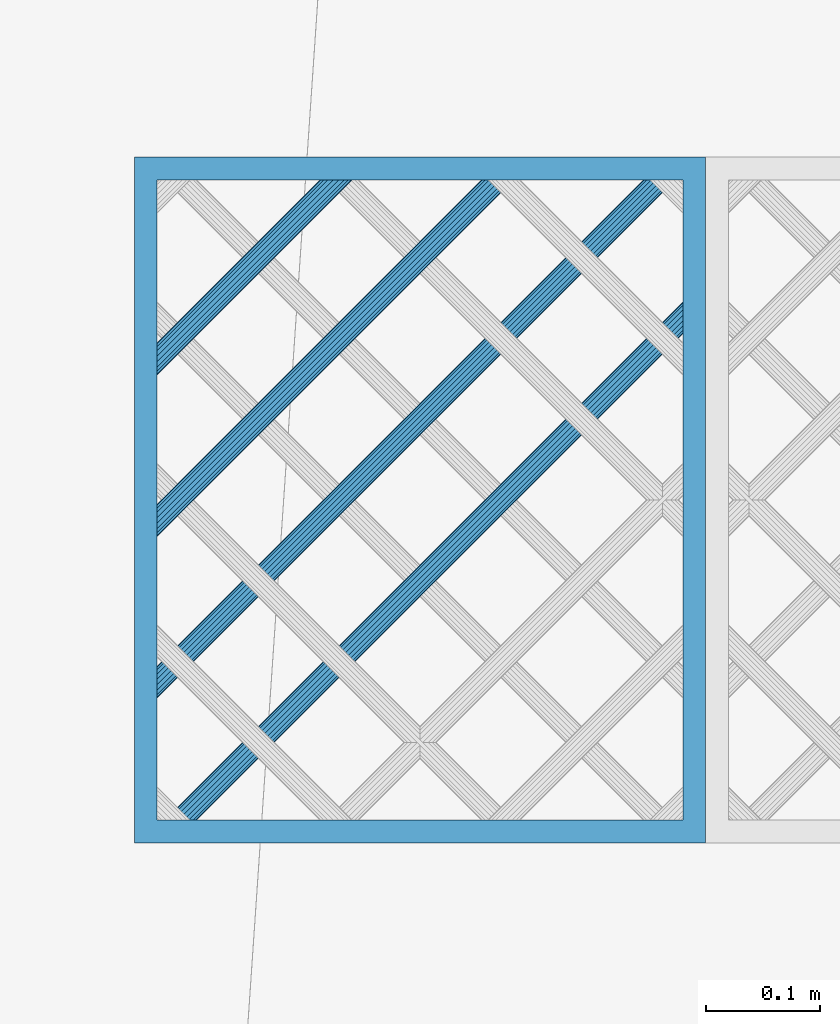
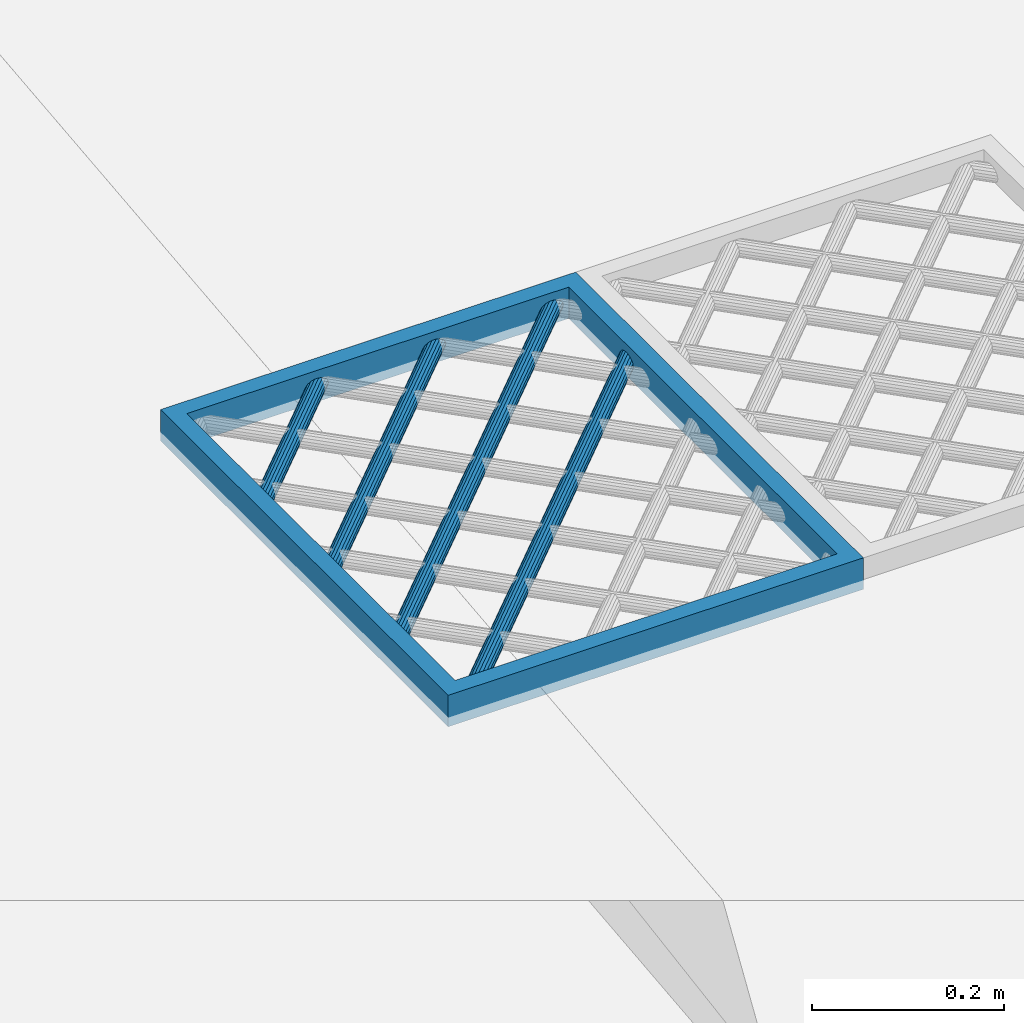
# One storey, part 73 of 133: 5 members, 1 element without a shape of its own.
"""IFC2X3 building model written with IfcOpenShell, lengths in centimetres."""

import ifcopenshell
import ifcopenshell.guid

model = None  # the IFC model being written
_history = None  # IfcOwnerHistory: only IFC2X3 demands one
_inside = {}  # id of a spatial element -> (the spatial element, [elements in it])
_under = {}  # id of a project, library or spatial element -> (it, [spatial elements below it])
_declared = {}  # id of a project -> (the project, [libraries it declares])
_typed = {}  # id of a type object -> (the type object, [elements of that type])
_made_of = {}  # id of a material, layer set ... -> (it, [elements and type objects made of it])


def new_model(schema):
    """Start an empty IFC model of exactly this schema.

    Asked for "IFC4X3", IfcOpenShell would pick the latest addendum, in which some entities
    have other attributes; the version numbers below select the first issue.
    IFC2X3 requires an IfcOwnerHistory on every rooted entity: one is made here for all.
    """
    global model, _history
    if schema == "IFC4X3":
        model = ifcopenshell.file(schema_version=(4, 3, 0, 0))
    else:
        model = ifcopenshell.file(schema=schema)
    _inside.clear()
    _under.clear()
    _declared.clear()
    _typed.clear()
    _made_of.clear()
    _history = None
    if model.schema == "IFC2X3":
        org = make("IfcOrganization", Name="unknown")
        user = make(
            "IfcPersonAndOrganization",
            ThePerson=make("IfcPerson", FamilyName="unknown"),
            TheOrganization=org,
        )
        app = make(
            "IfcApplication",
            ApplicationDeveloper=org,
            Version="unknown",
            ApplicationFullName="unknown",
            ApplicationIdentifier="unknown",
        )
        _history = make(
            "IfcOwnerHistory",
            OwningUser=user,
            OwningApplication=app,
            ChangeAction="ADDED",
            CreationDate=0,
        )
    return model


def make(cls, **values):
    """One entity of the class cls with the attributes given. An attribute that is None is left unset."""
    return model.create_entity(
        cls, **{name: value for name, value in values.items() if value is not None}
    )


def entity(cls, *values):
    """Any entity or typed value of the class cls, its attributes in the order of the schema. None: left unset."""
    e = model.create_entity(cls)
    for i, value in enumerate(values):
        if value is not None:
            e[i] = value
    return e


def rooted(cls, **values):
    """An entity with a GlobalId (a new one), such as an element, a storey or a relation."""
    return make(cls, GlobalId=ifcopenshell.guid.new(), OwnerHistory=_history, **values)


def si_unit(unit_type, name, prefix=None):
    """IfcSIUnit, for example si_unit("LENGTHUNIT", "METRE", prefix="MILLI")."""
    return make("IfcSIUnit", UnitType=unit_type, Prefix=prefix, Name=name)


def converted_unit(unit_type, name, factor, base, dimensions=None, offset=None):
    """IfcConversionBasedUnit, such as the inch: factor (a typed value) times the base unit."""
    return make(
        "IfcConversionBasedUnit"
        if offset is None
        else "IfcConversionBasedUnitWithOffset",
        ConversionOffset=offset,
        Dimensions=None
        if dimensions is None
        else entity("IfcDimensionalExponents", *dimensions),
        UnitType=unit_type,
        Name=name,
        ConversionFactor=make(
            "IfcMeasureWithUnit", ValueComponent=factor, UnitComponent=base
        ),
    )


def assignment(units):
    """IfcUnitAssignment: the units of a project."""
    return None if units is None else make("IfcUnitAssignment", Units=units)


def point(xyz):
    """IfcCartesianPoint."""
    return None if xyz is None else make("IfcCartesianPoint", Coordinates=xyz)


def direction(xyz):
    """IfcDirection."""
    return None if xyz is None else make("IfcDirection", DirectionRatios=xyz)


def frame(location, z_axis=None, x_axis=None):
    """IfcAxis2Placement3D, a coordinate frame: its origin and axes. An axis left out is left unset."""
    return make(
        "IfcAxis2Placement3D",
        Location=point(location),
        Axis=direction(z_axis),
        RefDirection=direction(x_axis),
    )


def origin():
    """The frame at (0, 0, 0) with its axes left unset."""
    return frame((0.0, 0.0, 0.0))


def origin_with_axes():
    """The frame at (0, 0, 0) with the z axis (0, 0, 1) and the x axis (1, 0, 0) written out."""
    return frame((0.0, 0.0, 0.0), z_axis=(0.0, 0.0, 1.0), x_axis=(1.0, 0.0, 0.0))


def place(relative_to, where):
    """IfcLocalPlacement: puts the frame where relative to a parent placement (None: the world)."""
    return make(
        "IfcLocalPlacement", PlacementRelTo=relative_to, RelativePlacement=where
    )


def context(
    kind, dimensions, precision=None, world=None, true_north=None, identifier=None
):
    """IfcGeometricRepresentationContext, for example the 3D "Model" context."""
    return make(
        "IfcGeometricRepresentationContext",
        ContextIdentifier=identifier,
        ContextType=kind,
        CoordinateSpaceDimension=dimensions,
        Precision=precision,
        WorldCoordinateSystem=world,
        TrueNorth=true_north,
    )


def subcontext(parent, identifier, kind, view, scale=None):
    """IfcGeometricRepresentationSubContext, for example "Body" below "Model"."""
    return make(
        "IfcGeometricRepresentationSubContext",
        ContextIdentifier=identifier,
        ContextType=kind,
        ParentContext=parent,
        TargetScale=scale,
        TargetView=view,
    )


def project(units=None, contexts=None):
    """IfcProject with its units and contexts."""
    return rooted(
        "IfcProject",
        Name="project",
        RepresentationContexts=contexts,
        UnitsInContext=assignment(units),
    )


def spatial(cls, under=None, at=None, **own):
    """A site, building, storey or space (cls), placed at a placement, below another one or the project."""
    s = rooted(cls, ObjectPlacement=at, **own)
    if under is not None:
        _under.setdefault(under.id(), (under, []))[1].append(s)
    return s


def faces_of(points, faces, orient=None, outer=None):
    """IfcFace entities. A face is a list of loops; a loop is a list of indices into points, from 0.

    orient and outer hold one flag for each loop. By default every Orientation is true, the
    first loop of a face is its IfcFaceOuterBound and the others are IfcFaceBound.
    """
    made = []
    for i, loops in enumerate(faces):
        bounds = []
        for j, loop in enumerate(loops):
            is_outer = j == 0 if outer is None else outer[i][j]
            bounds.append(
                make(
                    "IfcFaceOuterBound" if is_outer else "IfcFaceBound",
                    Bound=make("IfcPolyLoop", Polygon=[points[k] for k in loop]),
                    Orientation=True if orient is None else orient[i][j],
                )
            )
        made.append(make("IfcFace", Bounds=bounds))
    return made


def faceted_brep(points, faces, orient=None, outer=None, voids=None):
    """IfcFacetedBrep: a solid bounded by flat faces; with voids (closed shells), ...WithVoids."""
    shared = [point(p) for p in points]
    hull = make("IfcClosedShell", CfsFaces=faces_of(shared, faces, orient, outer))
    if voids is None:
        return make("IfcFacetedBrep", Outer=hull)
    return make(
        "IfcFacetedBrepWithVoids",
        Outer=hull,
        Voids=[
            make(cls, CfsFaces=faces_of(shared, fs, o, b)) for cls, fs, o, b in voids
        ],
    )


def shape(context_of_items, identifier, shape_type, items):
    """IfcShapeRepresentation: the items that make up one representation, for example the "Body"."""
    return make(
        "IfcShapeRepresentation",
        ContextOfItems=context_of_items,
        RepresentationIdentifier=identifier,
        RepresentationType=shape_type,
        Items=items,
    )


def material(Name=None, Category=None):
    """IfcMaterial."""
    return make("IfcMaterial", Name=Name, Category=Category)


def made_of(thing, what):
    """Note that an element or type object is made of a material, layer set ...; save() writes the relation."""
    if what is not None:
        _made_of.setdefault(what.id(), (what, []))[1].append(thing)
    return thing


def type_object(cls, material=None, **own):
    """A type object (cls), such as IfcWallType, which elements share."""
    return made_of(rooted(cls, **own), material)


def element(
    cls,
    number,
    at=None,
    inside=None,
    cuts=None,
    type_object=None,
    material=None,
    context=None,
    identifier="Body",
    shape_type=None,
    held_by="IfcProductDefinitionShape",
    body=None,
    shapes=None,
    **own,
):
    """One element of the class cls, such as IfcWall. Its Tag is "e" and its number.

    at: its placement. inside: the storey or other place that contains it. cuts: it is an
    opening in that element (IfcRelVoidsElement). A single representation is given by context,
    identifier, shape_type and body (its items); several are given by shapes. held_by: the class
    of the entity that holds the representations. save() writes the other relations.
    """
    e = rooted(cls, Tag="e%d" % number, ObjectPlacement=at, **own)
    if body is not None:
        shapes = [shape(context, identifier, shape_type, body)]
    if shapes is not None:
        e.Representation = make(held_by, Representations=shapes)
    if inside is not None:
        _inside.setdefault(inside.id(), (inside, []))[1].append(e)
    if cuts is not None:
        rooted(
            "IfcRelVoidsElement", RelatingBuildingElement=cuts, RelatedOpeningElement=e
        )
    if type_object is not None:
        _typed.setdefault(type_object.id(), (type_object, []))[1].append(e)
    return made_of(e, material)


def aggregate(whole, parts):
    """IfcRelAggregates: a whole, such as a stair, and the parts it consists of."""
    return rooted("IfcRelAggregates", RelatingObject=whole, RelatedObjects=parts)


def save(model, path):
    """Write the relations noted so far, then the file.

    IfcRelAggregates (storeys below a building ...), IfcRelContainedInSpatialStructure (elements
    in a storey), IfcRelDefinesByType, IfcRelAssociatesMaterial and IfcRelDeclares: one each for
    every whole, place, type object, material and project.
    """
    for whole, parts in _under.values():
        aggregate(whole, parts)
    for where, things in _inside.values():
        rooted(
            "IfcRelContainedInSpatialStructure",
            RelatedElements=things,
            RelatingStructure=where,
        )
    for kind, things in _typed.values():
        rooted("IfcRelDefinesByType", RelatedObjects=things, RelatingType=kind)
    for what, things in _made_of.values():
        rooted("IfcRelAssociatesMaterial", RelatedObjects=things, RelatingMaterial=what)
    for by, libraries in _declared.values():
        rooted("IfcRelDeclares", RelatingContext=by, RelatedDefinitions=libraries)
    model.write(path)


model = new_model("IFC2X3")

# Units and contexts
model_context = context("Model", 3, precision=0.0001, world=origin(), true_north=direction((0.225632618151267, 0.974212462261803, 0.0)))
body_context = subcontext(model_context, "Body", "Model", "MODEL_VIEW")
ifc_project = project(units=[si_unit("LENGTHUNIT", "METRE", prefix="CENTI"), si_unit("AREAUNIT", "SQUARE_METRE", prefix="CENTI"), si_unit("VOLUMEUNIT", "CUBIC_METRE", prefix="CENTI"), converted_unit("PLANEANGLEUNIT", "DEGREE", entity("IfcRatioMeasure", 0.0174532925), si_unit("PLANEANGLEUNIT", "RADIAN"), dimensions=[0, 0, 0, 0, 0, 0, 0])], contexts=[model_context])

# Site, building, storey
site_placement = place(None, origin_with_axes())
site = spatial("IfcSite", under=ifc_project, at=site_placement, Name="Default Site", CompositionType="ELEMENT")
building_placement = place(site_placement, origin_with_axes())
building = spatial("IfcBuilding", under=site, at=building_placement, Name="Default Building", CompositionType="ELEMENT")
storey_placement = place(building_placement, frame((0.0, 0.0, -291.400371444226), z_axis=(0.0, 0.0, 1.0), x_axis=(1.0, 0.0, 0.0)))
storey = spatial("IfcBuildingStorey", under=building, at=storey_placement, Name="Rez-de-Jardin", CompositionType="ELEMENT", Elevation=-291.400371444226)

# Assembly, members
building_element_proxy_type = type_object("IfcBuildingElementProxyType", Name="Type Object", PredefinedType="NOTDEFINED")
assembly_placement = place(storey_placement, frame((-26.2717802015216, 1298.33524038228, 113.0), z_axis=(0.0, 1.0, -2.38697950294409e-15), x_axis=(1.0, 0.0, 0.0)))
assembly = element("IfcElementAssembly", 1, at=assembly_placement, inside=storey, type_object=building_element_proxy_type, Name="Panneau 326484", ObjectType="Precast panel", PredefinedType="USERDEFINED")
ifc_material = material(Name="Aluminium satiné")
member_1_placement = place(assembly_placement, frame((1.99999995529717, 1.99999995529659, 57.9999983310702), z_axis=(0.999999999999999, 1.92249071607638e-31, -8.0540729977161e-17), x_axis=(0.0, 1.0, 2.38697950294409e-15)))
member_1 = element("IfcMember", 2, at=member_1_placement, material=ifc_material, Name="4294966902", context=body_context, shape_type="Brep", body=[
    faceted_brep([(-1.70002900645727e-14, 0.0, -1.73472347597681e-15), (-3.99999991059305, 0.0, -1.73472347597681e-15), (-3.99999991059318, -55.9999983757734, -1.73472347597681e-15), (-1.50573997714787e-13, -55.9999983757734, -1.73472347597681e-15), (-3.99999991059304, 2.00000405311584, -1.99999995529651), (-3.99999991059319, -57.9999983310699, -1.99999995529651), (-3.99999991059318, -55.9999983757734, 2.77555756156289e-15), (-1.21430643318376e-14, 2.00000405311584, -1.99999995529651), (-1.55431223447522e-13, -57.9999983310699, -1.99999995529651), (-1.69170330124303e-14, -1.98732876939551e-31, -1.73472347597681e-15), (-1.50587881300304e-13, -55.9999983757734, 2.77555756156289e-15), (-1.55361840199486e-13, -57.9999983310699, -1.99999995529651), (-1.50573997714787e-13, -55.9999983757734, 2.77555756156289e-15), (-3.99999991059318, -55.9999983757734, 45.9999989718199), (-1.50573997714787e-13, -55.9999983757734, 45.9999989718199), (-3.99999991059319, -57.9999983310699, 48.0000000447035), (-1.55431223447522e-13, -57.99999833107, 48.0000000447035), (-3.99999991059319, -57.9999983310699, 48.0000000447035), (-1.5065726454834e-13, -55.9999983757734, 2.77555756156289e-15), (-1.5065726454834e-13, -55.9999983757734, 45.9999989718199), (-3.99999991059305, -4.47090864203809e-31, 45.9999989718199), (-1.70002900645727e-14, -4.47090864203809e-31, 45.9999989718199), (-3.99999991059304, 2.00000405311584, 48.0000000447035), (-3.99999991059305, 0.0, 45.9999989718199), (-1.21430643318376e-14, 2.00000405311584, 48.0000000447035), (-1.69864162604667e-14, -3.31164860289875e-32, 45.9999989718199), (-1.2212447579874e-14, 2.00000405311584, 48.0000000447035), (-1.70002900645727e-14, 0.0, 45.9999989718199), (-3.99999991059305, 9.54791779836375e-15, 45.9999989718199), (-3.99999991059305, 5.84304430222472e-15, -1.73472347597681e-15), (-1.70002900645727e-14, -3.70487349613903e-15, -1.73472347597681e-15), (-1.21430643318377e-14, 2.00000405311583, 48.0000000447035), (-1.21430643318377e-14, 2.00000405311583, -1.99999995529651), (-1.69170330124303e-14, -1.98732876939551e-31, 45.9999989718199), (-1.69170330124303e-14, -1.98732876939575e-31, -1.73472347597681e-15)], [[[0, 1, 2, 3]], [[1, 4, 5, 6]], [[4, 7, 8, 5]], [[7, 9, 10, 11]], [[12, 6, 13, 14]], [[6, 5, 15, 13]], [[5, 8, 16, 17]], [[8, 18, 19, 16]], [[14, 13, 20, 21]], [[13, 15, 22, 23]], [[15, 16, 24, 22]], [[16, 19, 25, 26]], [[27, 28, 29, 30]], [[23, 22, 4, 1]], [[22, 31, 32, 4]], [[24, 33, 34, 7]]]),
])
member_2_placement = place(assembly_placement, frame((18.973587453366, 0.342020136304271, 57.9999983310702), z_axis=(1.16937634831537e-15, -1.43218776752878e-15, 1.0), x_axis=(0.632455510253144, -0.774596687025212, -1.84894641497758e-15)))
member_2 = element("IfcMember", 3, at=member_2_placement, material=ifc_material, Name="4294966900", context=body_context, shape_type="Brep", body=[
    faceted_brep([(-4.16333634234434e-15, -2.22044604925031e-14, -3.10862446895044e-13), (-0.388289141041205, -2.22044604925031e-14, -3.11580372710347e-13), (-0.799165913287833, -0.150249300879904, -3.1234006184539e-13), (-1.18307196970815, -0.432624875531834, -3.13049883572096e-13), (-1.49370326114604, -0.813068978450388, -3.1362422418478e-13), (-1.69359339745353, -1.24569483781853, -3.13993810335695e-13), (-1.75863166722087, -1.67832007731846, -3.14114062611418e-13), (-1.68097381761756, -2.05876418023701, -3.13970477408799e-13), (-1.46998625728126, -2.34113956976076, -3.1358037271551e-13), (-1.15111848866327, -2.49138921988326, -3.12990803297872e-13), (-0.762829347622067, -2.49138921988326, -3.12272877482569e-13), (-0.351952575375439, -2.34113991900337, -3.11513188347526e-13), (0.0319544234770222, -2.05876319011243, -3.10803364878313e-13), (0.342585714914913, -1.67831908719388, -3.10229024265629e-13), (0.542474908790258, -1.24569438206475, -3.09859439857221e-13), (0.607513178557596, -0.813069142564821, -3.09739187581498e-13), (0.529855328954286, -0.432625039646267, -3.09882772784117e-13), (0.318867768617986, -0.150249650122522, -3.10272877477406e-13), (-10.4701112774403, -13.3639971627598, -17.058873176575), (-10.2051836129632, -13.5803096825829, -16.9735848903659), (-9.97221011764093, -13.7705317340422, -16.7280107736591), (-9.79929086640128, -13.9117197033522, -16.3517653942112), (-9.7072824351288, -13.9868442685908, -15.8902347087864), (-9.7072824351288, -13.9868442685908, -15.3990834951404), (-9.79929086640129, -13.9117197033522, -14.9375528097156), (-9.97221011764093, -13.7705317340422, -14.5613074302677), (-10.2051836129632, -13.5803096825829, -14.3157333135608), (-10.4701112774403, -13.3639971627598, -14.2304450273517), (-10.7350389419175, -13.1476846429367, -14.3157333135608), (-10.9680124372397, -12.9574625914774, -14.5613074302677), (-11.1409316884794, -12.8162746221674, -14.9375528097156), (-11.2329401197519, -12.7411500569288, -15.3990834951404), (-11.2329401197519, -12.7411500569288, -15.8902347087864), (-11.1409316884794, -12.8162746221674, -16.3517653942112), (-10.9680124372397, -12.9574625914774, -16.7280107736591), (-10.7350389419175, -13.1476846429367, -16.9735848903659), (0.318867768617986, -0.150249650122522, -3.10862446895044e-13), (0.529855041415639, -0.432625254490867, 3.48273005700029e-07), (-10.205182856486, -13.5803091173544, -16.9735858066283), (-10.470110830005, -13.3639968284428, -17.0588737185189), (0.529855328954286, -0.432625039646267, -3.10862446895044e-13), (0.607513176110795, -0.813069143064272, 1.93405553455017e-09), (-9.97220958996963, -13.7705316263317, -16.7280111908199), (-10.205182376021, -13.5803094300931, -16.9735858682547), (0.607513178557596, -0.813069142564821, -3.10862446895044e-13), (0.542475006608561, -1.24569439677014, -5.04752929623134e-08), (-9.79928972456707, -13.9117198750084, -16.3517659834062), (-9.97220967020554, -13.7705318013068, -16.7280110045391), (0.542474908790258, -1.24569438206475, -3.10862446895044e-13), (0.342585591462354, -1.67831903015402, 3.38950544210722e-08), (-9.7072820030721, -13.9868444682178, -15.8902348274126), (-9.79929031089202, -13.911719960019, -16.3517655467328), (0.342585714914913, -1.67831908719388, -3.10862446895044e-13), (0.0319544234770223, -2.05876319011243, -3.10862446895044e-13), (0.0319544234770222, -2.05876319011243, -3.10862446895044e-13), (-0.351952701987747, -2.34113974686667, -5.32601805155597e-08), (-9.79929114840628, -13.9117193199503, -14.9375529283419), (-9.70728279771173, -13.9868437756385, -15.3990836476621), (-0.351952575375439, -2.34113991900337, -3.10862446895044e-13), (-0.762829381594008, -2.49138912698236, -5.04752917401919e-08), (-9.97221051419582, -13.770530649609, -14.5613080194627), (-9.79929102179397, -13.9117192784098, -14.9375530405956), (-0.762829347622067, -2.49138921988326, -3.10862446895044e-13), (-1.15111848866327, -2.49138922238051, 1.93405500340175e-09), (-10.2051836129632, -13.5803091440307, -14.3157337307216), (-9.97221011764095, -13.7705304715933, -14.5613084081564), (-1.15111848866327, -2.49138921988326, -3.10862446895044e-13), (-1.46998641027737, -2.34113989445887, 3.4827300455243e-07), (-10.4701108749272, -13.3639963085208, -14.2304459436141), (-10.2051833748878, -13.5803091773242, -14.3157338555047), (-1.46998625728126, -2.34113956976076, -3.10862446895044e-13), (-1.68097353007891, -2.05876396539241, -3.48273627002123e-07), (-10.7350382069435, -13.147684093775, -14.315734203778), (-10.4701102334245, -13.3639963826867, -14.2304462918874), (-1.68097381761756, -2.05876418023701, -3.10862446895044e-13), (-1.75863166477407, -1.67832007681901, -1.93467736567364e-09), (-10.9680111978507, -12.9574623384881, -14.5613084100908), (-10.7350384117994, -13.1476845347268, -14.315733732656), (-1.75863166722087, -1.67832007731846, -3.10862446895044e-13), (-1.69359349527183, -1.24569482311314, 5.0474670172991e-08), (-11.1409313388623, -12.8162746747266, -14.9375529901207), (-10.9680113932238, -12.9574627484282, -14.5613079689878), (-1.69359339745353, -1.24569483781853, -3.10862446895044e-13), (-1.49370345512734, -0.813068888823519, 5.32595587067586e-08), (-11.2329397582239, -12.7411502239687, -15.3990835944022), (-11.140931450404, -12.8162747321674, -14.937552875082), (-1.49370326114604, -0.813068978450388, -3.10862446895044e-13), (-1.18307196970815, -0.432624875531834, -3.10862446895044e-13), (-0.79916599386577, -0.15024919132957, -3.3895676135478e-08), (-11.1409321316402, -12.8162740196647, -16.3517655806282), (-11.2329404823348, -12.7411495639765, -15.890234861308), (-0.799165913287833, -0.150249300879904, -3.10862446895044e-13), (-0.388289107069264, -9.29009132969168e-08, 5.04746701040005e-08), (-10.9680125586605, -12.9574622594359, -16.7280109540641), (-11.1409320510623, -12.8162736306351, -16.3517659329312), (-0.388289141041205, -2.22044604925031e-14, -3.10862446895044e-13), (-4.18903383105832e-15, 2.49723325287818e-09, -1.93467665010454e-09), (-10.7350389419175, -13.1476833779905, -16.973585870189), (-10.9680124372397, -12.9574620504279, -16.7280111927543), (0.318867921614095, -0.150249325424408, -3.48273626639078e-07), (-10.4701108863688, -13.3639963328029, -17.0588740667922), (-10.7350383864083, -13.1476834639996, -16.9735861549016)], [[[0, 1, 2, 3, 4, 5, 6, 7, 8, 9, 10, 11, 12, 13, 14, 15, 16, 17]], [[18, 19, 20, 21, 22, 23, 24, 25, 26, 27, 28, 29, 30, 31, 32, 33, 34, 35]], [[36, 37, 38, 39]], [[40, 41, 42, 43]], [[44, 45, 46, 47]], [[48, 49, 50, 51]], [[52, 53, 23, 22]], [[54, 55, 56, 57]], [[58, 59, 60, 61]], [[62, 63, 64, 65]], [[66, 67, 68, 69]], [[70, 71, 72, 73]], [[74, 75, 76, 77]], [[78, 79, 80, 81]], [[82, 83, 84, 85]], [[86, 87, 32, 31]], [[87, 88, 89, 90]], [[91, 92, 93, 94]], [[95, 96, 97, 98]], [[0, 99, 100, 101]]]),
])
member_3_placement = place(assembly_placement, frame((33.1157237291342, 0.342020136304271, 57.9999983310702), z_axis=(1.16937776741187e-15, -1.43218081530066e-15, 1.0), x_axis=(0.632457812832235, -0.774594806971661, -1.84894192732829e-15)))
member_3 = element("IfcMember", 4, at=member_3_placement, material=ifc_material, Name="4294966899", context=body_context, shape_type="Brep", body=[
    faceted_brep([(5.55111512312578e-15, -3.88578058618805e-14, 5.55111512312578e-14), (-0.388290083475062, -3.88578058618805e-14, 5.4793225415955e-14), (-0.799166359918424, -0.150246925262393, 5.40335390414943e-14), (-1.18307325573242, -0.432621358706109, 5.33237174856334e-14), (-1.49370567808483, -0.813064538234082, 5.27493761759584e-14), (-1.69359804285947, -1.24569095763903, 5.23797868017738e-14), (-1.75863665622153, -1.67831484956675, 5.22595341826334e-14), (-1.68098087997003, -2.05876033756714, 5.2403115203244e-14), (-1.46999321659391, -2.34113520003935, 5.27932191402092e-14), (-1.15112683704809, -2.49138695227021, 5.33827845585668e-14), (-0.762836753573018, -2.49138695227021, 5.41007103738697e-14), (-0.351960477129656, -2.34114002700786, 5.48603967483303e-14), (0.0319483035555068, -2.05876328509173, 5.55702217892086e-14), (0.342580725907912, -1.67832010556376, 5.61445630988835e-14), (0.542471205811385, -1.24569599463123, 5.65141489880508e-14), (0.607509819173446, -0.813072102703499, 5.66344016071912e-14), (0.529854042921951, -0.432626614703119, 5.64908205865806e-14), (0.318866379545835, -0.150251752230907, 5.61007166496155e-14), (-19.414455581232, -24.3183913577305, -31.2010079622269), (-19.149528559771, -24.534704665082, -31.1157196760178), (-18.9165556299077, -24.7249274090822, -30.8701455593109), (-18.7436367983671, -24.8661158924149, -30.4939031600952), (-18.6516285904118, -24.9412407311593, -30.0323694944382), (-18.6516285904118, -24.9412407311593, -29.5412182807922), (-18.7436367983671, -24.8661158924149, -29.0796875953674), (-18.9165556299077, -24.7249274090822, -28.7034451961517), (-19.149528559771, -24.534704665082, -28.4578680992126), (-19.414455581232, -24.3183913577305, -28.3725827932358), (-19.679382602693, -24.1020780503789, -28.4578680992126), (-19.9123555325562, -23.9118553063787, -28.7034451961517), (-20.0852743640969, -23.770666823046, -29.0796875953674), (-20.1772825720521, -23.6955419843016, -29.5412182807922), (-20.1772825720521, -23.6955419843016, -30.0323694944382), (-20.0852743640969, -23.770666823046, -30.4939031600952), (-19.9123555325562, -23.9118553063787, -30.8701455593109), (-19.679382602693, -24.1020780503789, -31.1157196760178), (0.318866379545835, -0.150251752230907, 5.55111512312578e-14), (0.529853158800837, -0.432627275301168, 1.07086518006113e-06), (-19.1495278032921, -24.5347040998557, -31.1157205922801), (-19.4144551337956, -24.3183910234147, -31.2010085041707), (0.529854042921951, -0.432626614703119, 5.55111512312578e-14), (0.607510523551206, -0.813071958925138, -5.56859133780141e-07), (-18.9165543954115, -24.7249271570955, -30.8701465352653), (-19.1495266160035, -24.534704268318, -31.1157212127), (0.607509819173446, -0.813072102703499, 5.55111512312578e-14), (0.542470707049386, -1.24569591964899, 2.57365122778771e-07), (-18.7436368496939, -24.8661158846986, -30.4939031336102), (-18.9165551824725, -24.7249274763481, -30.8701457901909), (0.542471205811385, -1.24569599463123, 5.55111512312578e-14), (0.342580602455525, -1.67832004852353, 3.38954203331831e-08), (-18.6516278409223, -24.9412410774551, -30.0323697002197), (-18.743636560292, -24.8661160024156, -30.4939032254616), (0.342580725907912, -1.67832010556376, 5.55111512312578e-14), (0.0319483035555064, -2.05876328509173, 5.55111512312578e-14), (0.0319483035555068, -2.05876328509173, 5.55111512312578e-14), (-0.351960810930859, -2.34113957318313, -1.40415047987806e-07), (-18.7436372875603, -24.8661152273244, -29.0796878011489), (-18.6516291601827, -24.9412399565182, -29.5412185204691), (-0.351960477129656, -2.34114002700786, 5.55111512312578e-14), (-0.762836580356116, -2.49138742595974, 2.57365121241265e-07), (-18.9165556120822, -24.7249274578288, -28.7034451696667), (-18.7436369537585, -24.866115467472, -29.0796878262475), (-0.762836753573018, -2.49138695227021, 5.55111512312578e-14), (-1.15112683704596, -2.4913862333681, -5.56859133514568e-07), (-19.1495285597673, -24.5347034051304, -28.457869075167), (-18.9165556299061, -24.7249268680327, -28.7034456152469), (-1.15112683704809, -2.49138695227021, 5.55111512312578e-14), (-1.46999368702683, -2.34113619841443, 1.07086517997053e-06), (-19.414455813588, -24.3183918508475, -28.3725822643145), (-19.1495283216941, -24.5347041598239, -28.4578686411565), (-1.46999321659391, -2.34113520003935, 5.55111512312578e-14), (-1.68097999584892, -2.05875967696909, -1.07086506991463e-06), (-19.6793812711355, -24.1020770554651, -28.4578697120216), (-19.4144551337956, -24.3183910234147, -28.3725833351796), (-1.68098087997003, -2.05876033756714, 5.55111512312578e-14), (-1.75863736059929, -1.67831499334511, 5.56859245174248e-07), (-19.9123557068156, -23.9118553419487, -28.7034450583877), (-19.6793820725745, -24.1020779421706, -28.4578685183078), (-1.75863665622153, -1.67831484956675, 5.55111512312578e-14), (-1.69359754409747, -1.24569103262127, -2.57365011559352e-07), (-20.0852734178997, -23.7706669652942, -29.0796880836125), (-19.912355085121, -23.9118553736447, -28.7034454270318), (-1.69359804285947, -1.24569095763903, 5.55111512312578e-14), (-1.49370618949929, -0.813064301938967, 1.40415160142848e-07), (-20.1772822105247, -23.6955421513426, -29.541218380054), (-20.0852741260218, -23.7706669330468, -29.0796876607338), (-1.49370567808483, -0.813064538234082, 5.55111512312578e-14), (-1.18307325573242, -0.43262135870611, 5.55111512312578e-14), (-20.1772825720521, -23.6955419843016, -30.0323694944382), (-20.1772825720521, -23.6955419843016, -29.5412182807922), (-1.18307325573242, -0.432621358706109, 5.55111512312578e-14), (-0.799166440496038, -0.150246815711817, -3.38953106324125e-08), (-20.0852746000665, -23.7706665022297, -30.493903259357), (-20.177283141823, -23.6955412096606, -30.0323697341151), (-0.799166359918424, -0.150246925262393, 5.55111512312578e-14), (-0.388290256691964, 4.73689487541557e-07, -2.57365009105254e-07), (-19.9123558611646, -23.9118544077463, -30.870146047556), (-20.0852745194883, -23.7706663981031, -30.4939033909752), (-0.388290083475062, -3.88578058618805e-14, 5.55111512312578e-14), (-2.12407422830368e-12, -7.18902150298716e-07, 5.56859244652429e-07), (-19.6793826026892, -24.1020767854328, -31.1157206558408), (-19.9123555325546, -23.9118547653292, -30.8701459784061), (0.31886684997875, -0.150250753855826, -1.0708650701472e-06), (-19.4144548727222, -24.3183898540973, -31.2010095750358), (-19.6793817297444, -24.102076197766, -31.1157216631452)], [[[0, 1, 2, 3, 4, 5, 6, 7, 8, 9, 10, 11, 12, 13, 14, 15, 16, 17]], [[18, 19, 20, 21, 22, 23, 24, 25, 26, 27, 28, 29, 30, 31, 32, 33, 34, 35]], [[36, 37, 38, 39]], [[40, 41, 42, 43]], [[44, 45, 46, 47]], [[48, 49, 50, 51]], [[52, 53, 23, 22]], [[54, 55, 56, 57]], [[58, 59, 60, 61]], [[62, 63, 64, 65]], [[66, 67, 68, 69]], [[70, 71, 72, 73]], [[74, 75, 76, 77]], [[78, 79, 80, 81]], [[82, 83, 84, 85]], [[86, 87, 88, 89]], [[90, 91, 92, 93]], [[94, 95, 96, 97]], [[98, 99, 100, 101]], [[0, 102, 103, 104]]]),
])
member_4_placement = place(assembly_placement, frame((47.2578585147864, 0.342020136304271, 57.9999983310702), z_axis=(1.16937776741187e-15, -1.43218081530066e-15, 1.0), x_axis=(0.632457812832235, -0.774594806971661, -1.84894192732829e-15)))
member_4 = element("IfcMember", 5, at=member_4_placement, material=ifc_material, Name="4294966898", context=body_context, shape_type="Brep", body=[
    faceted_brep([(5.55111512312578e-15, -2.77555756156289e-14, 7.7715611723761e-14), (-0.388290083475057, -2.77555756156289e-14, 7.69976859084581e-14), (-0.799166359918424, -0.150246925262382, 7.62379995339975e-14), (-1.18307325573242, -0.432621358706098, 7.55281779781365e-14), (-1.49370567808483, -0.813064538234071, 7.49538366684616e-14), (-1.6935961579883, -1.2456886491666, 7.45842507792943e-14), (-1.75863665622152, -1.67831484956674, 7.44639946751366e-14), (-1.68097899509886, -2.05875802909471, 7.46075791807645e-14), (-1.46999321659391, -2.34113520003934, 7.49976796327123e-14), (-1.15112495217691, -2.49138464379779, 7.55872485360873e-14), (-0.762836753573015, -2.4913869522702, 7.63051708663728e-14), (-0.351958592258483, -2.34113771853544, 7.70648607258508e-14), (0.0319483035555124, -2.05876328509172, 7.77746822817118e-14), (0.342580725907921, -1.67832010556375, 7.83490235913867e-14), (0.54247120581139, -1.24569599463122, 7.8718609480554e-14), (0.607509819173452, -0.813072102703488, 7.88388620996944e-14), (0.529854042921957, -0.432626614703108, 7.86952810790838e-14), (0.318868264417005, -0.150249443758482, 7.8305180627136e-14), (-28.3587592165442, -35.2728155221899, -45.3431442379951), (-28.0938321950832, -35.4891288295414, -45.257855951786), (-27.8608592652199, -35.6793515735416, -45.0122803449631), (-27.6879404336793, -35.8205400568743, -44.6360379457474), (-27.595932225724, -35.8956648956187, -44.1745057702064), (-27.595932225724, -35.8956648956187, -43.6833545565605), (-27.6879404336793, -35.8205400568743, -43.2218238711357), (-27.8608592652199, -35.6793515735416, -42.8455799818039), (-28.0938321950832, -35.4891288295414, -42.6000043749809), (-28.3587592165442, -35.2728155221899, -42.5147175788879), (-28.6236862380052, -35.0565022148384, -42.6000043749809), (-28.8566591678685, -34.8662794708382, -42.8455799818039), (-29.0295779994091, -34.7250909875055, -43.2218238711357), (-29.1215862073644, -34.6499661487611, -43.6833545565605), (-29.1215862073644, -34.6499661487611, -44.1745057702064), (-29.0295779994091, -34.7250909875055, -44.6360379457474), (-28.8566591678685, -34.8662794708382, -45.0122803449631), (-28.6236862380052, -35.0565022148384, -45.257855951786), (0.318868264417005, -0.150249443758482, 7.7715611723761e-14), (0.529854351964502, -0.432626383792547, -3.74318415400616e-07), (-28.0938308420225, -35.4891278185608, -45.2578575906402), (-28.358758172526, -35.2728147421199, -45.3431455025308), (0.529854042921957, -0.432626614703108, 7.7715611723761e-14), (0.607510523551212, -0.813071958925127, -5.56859111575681e-07), (-27.8608580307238, -35.6793513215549, -45.0122813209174), (-28.0938309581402, -35.4891285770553, -45.2578569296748), (0.607509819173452, -0.813072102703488, 7.7715611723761e-14), (0.542470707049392, -1.24569591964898, 2.57365144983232e-07), (-27.6879404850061, -35.820540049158, -44.6360379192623), (-27.8608588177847, -35.6793516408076, -45.0122805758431), (0.54247120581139, -1.24569599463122, 7.7715611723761e-14), (0.342580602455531, -1.67832004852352, 3.38954431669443e-08), (-27.5959317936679, -35.8956650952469, -44.1745058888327), (-27.6879401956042, -35.8205401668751, -44.6360380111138), (0.342580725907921, -1.67832010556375, 7.7715611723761e-14), (0.0319483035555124, -2.05876328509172, 7.7715611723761e-14), (-0.351958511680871, -2.34113782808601, 3.3895443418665e-08), (-27.6879407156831, -35.8205396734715, -43.221823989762), (-27.5959325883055, -35.8956644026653, -43.6833547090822), (-0.351958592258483, -2.34113771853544, 7.7715611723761e-14), (-0.762836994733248, -2.49138629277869, -3.58314950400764e-07), (-27.8608596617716, -35.6793504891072, -42.8455805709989), (-27.6879407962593, -35.8205390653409, -43.2218244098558), (-0.762836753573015, -2.4913869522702, 7.7715611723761e-14), (-1.15112495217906, -2.49138536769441, 5.60727997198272e-07), (-28.0938321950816, -35.4891282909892, -42.6000047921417), (-27.8608592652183, -35.6793510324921, -42.845580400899), (-1.15112495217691, -2.49138464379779, 7.7715611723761e-14), (-1.46999305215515, -2.34113485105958, -3.74318417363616e-07), (-28.3587588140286, -35.2728146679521, -42.5147184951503), (-28.0938316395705, -35.489127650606, -42.6000056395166), (-1.46999321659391, -2.34113520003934, 7.7715611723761e-14), (-1.68097930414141, -2.05875826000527, 3.74318572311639e-07), (-28.6236855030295, -35.0565016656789, -42.6000052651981), (-28.3587587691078, -35.2728151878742, -42.5147181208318), (-1.68097899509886, -2.05875802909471, 7.7715611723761e-14), (-1.75863594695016, -1.67831470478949, -5.60727843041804e-07), (-28.8566579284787, -34.8662792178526, -42.845580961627), (-28.6236850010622, -35.0565019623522, -42.6000053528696), (-1.75863665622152, -1.67831484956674, 7.7715611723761e-14), (-1.69359685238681, -1.24568854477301, 3.58315105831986e-07), (-29.0295776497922, -34.7250910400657, -43.2218240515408), (-28.8566587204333, -34.8662795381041, -42.8455802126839), (-1.6935961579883, -1.2456886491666, 7.7715611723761e-14), (-1.49370555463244, -0.813064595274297, -3.38952877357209e-08), (-29.1215855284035, -34.6499664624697, -43.6833547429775), (-29.0295774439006, -34.7250912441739, -43.2218240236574), (-1.49370567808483, -0.813064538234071, 7.7715611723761e-14), (-1.18307325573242, -0.432621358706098, 7.7715611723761e-14), (-0.799166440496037, -0.150246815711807, -3.38952880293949e-08), (-29.0295782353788, -34.7250906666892, -44.6360380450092), (-29.1215865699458, -34.6499656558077, -44.1745059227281), (-0.799166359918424, -0.150246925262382, 7.7715611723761e-14), (-0.388290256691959, 4.73689500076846e-07, -2.57364987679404e-07), (-28.8566594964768, -34.8662785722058, -45.0122808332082), (-29.0295781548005, -34.7250905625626, -44.6360381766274), (-0.388290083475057, -2.77555756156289e-14, 7.7715611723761e-14), (-2.12407422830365e-12, -7.18902139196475e-07, 5.56859266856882e-07), (-28.6236862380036, -35.0565016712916, -45.2578563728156), (-28.8566591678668, -34.8662789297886, -45.0122807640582), (0.318868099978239, -0.150249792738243, 3.74318570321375e-07), (-28.3587588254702, -35.2728146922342, -45.3431451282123), (-28.6236856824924, -35.0565010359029, -45.2578572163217)], [[[0, 1, 2, 3, 4, 5, 6, 7, 8, 9, 10, 11, 12, 13, 14, 15, 16, 17]], [[18, 19, 20, 21, 22, 23, 24, 25, 26, 27, 28, 29, 30, 31, 32, 33, 34, 35]], [[36, 37, 38, 39]], [[40, 41, 42, 43]], [[44, 45, 46, 47]], [[48, 49, 50, 51]], [[52, 53, 23, 22]], [[53, 54, 55, 56]], [[57, 58, 59, 60]], [[61, 62, 63, 64]], [[65, 66, 67, 68]], [[69, 70, 71, 72]], [[73, 74, 75, 76]], [[77, 78, 79, 80]], [[81, 82, 83, 84]], [[85, 86, 32, 31]], [[86, 87, 88, 89]], [[90, 91, 92, 93]], [[94, 95, 96, 97]], [[0, 98, 99, 100]]]),
])
member_5_placement = place(assembly_placement, frame((47.999998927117, 0.342020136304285, 44.6000069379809), z_axis=(0.999999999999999, 0.0, 0.0), x_axis=(0.0, -0.774598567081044, -0.632453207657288)))
member_5 = element("IfcMember", 6, at=member_5_placement, material=ifc_material, Name="4294966897", context=body_context, shape_type="Brep", body=[
    faceted_brep([(2.77555756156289e-14, -1.11022302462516e-13, 0.0), (-0.388288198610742, -1.11022302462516e-13, 0.0), (-0.799165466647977, -0.150251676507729, 0.0), (-1.18307068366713, -0.43262839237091, 0.0), (-1.49370084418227, -0.813073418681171, 0.0), (-1.69358875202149, -1.24569871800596, 0.0), (-1.75862479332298, -1.67832299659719, 0.0), (-1.68096675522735, -2.05876802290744, 0.0), (-1.4699792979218, -2.34114393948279, 0.0), (-1.15111014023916, -2.49139148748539, 0.0), (-0.762820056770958, -2.49138917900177, 0.0), (-0.351944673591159, -2.34113981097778, 0.0), (0.0319605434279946, -2.0587630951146, 0.0), (0.342590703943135, -1.67831806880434, 0.0), (0.542478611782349, -1.24569276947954, 0.0), (0.607516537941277, -0.813066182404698, 0.0), (0.529856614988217, -0.432623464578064, 0.0), (0.318869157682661, -0.150247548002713, 0.0), (27.2074393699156, 32.7815926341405, -42.5147175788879), (27.4723676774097, 32.5652809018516, -42.600005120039), (27.7053417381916, 32.3750595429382, -42.845580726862), (27.8782614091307, 32.2338720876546, -43.2218242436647), (27.9702700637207, 32.1587477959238, -43.6833556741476), (27.9702700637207, 32.1587477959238, -44.1745068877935), (27.8782614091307, 32.2338720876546, -44.6360379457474), (27.7053417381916, 32.3750595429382, -45.0122816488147), (27.4723676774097, 32.5652809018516, -45.2578572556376), (27.2074393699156, 32.7815926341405, -45.3431446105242), (26.9425110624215, 32.9979043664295, -45.2578572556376), (26.7095370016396, 33.1881257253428, -45.0122816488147), (26.5366173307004, 33.3293131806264, -44.6360379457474), (26.4446086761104, 33.4044374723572, -44.1745068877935), (26.4446086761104, 33.4044374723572, -43.6833556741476), (26.5366173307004, 33.3293131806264, -43.2218242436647), (26.7095370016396, 33.1881257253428, -42.845580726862), (26.9425110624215, 32.9979043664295, -42.600005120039), (0.529856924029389, -0.432623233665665, 3.74318493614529e-07), (27.4723672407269, 32.5652805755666, -42.6000056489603), (27.2074389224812, 32.7815922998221, -42.5147181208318), (0.607515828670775, -0.813066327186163, -5.60727920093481e-07), (27.7053408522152, 32.3750593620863, -42.8455814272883), (27.47236679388, 32.565280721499, -42.6000058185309), (0.542479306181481, -1.24569287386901, 3.58315028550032e-07), (27.8782612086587, 32.2338721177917, -43.2218243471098), (27.7053415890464, 32.3750595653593, -42.845580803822), (0.342590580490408, -1.67831801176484, -3.3895365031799e-08), (27.9702696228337, 32.1587479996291, -43.6833557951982), (27.8782609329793, 32.2338723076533, -43.2218243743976), (0.031960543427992, -2.05876309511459, 0.0), (-0.351944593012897, -2.34113992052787, -3.38953651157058e-08), (27.8782616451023, 32.2338717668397, -44.6360380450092), (27.9702702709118, 32.1587475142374, -44.1745069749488), (-0.762819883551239, -2.49138965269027, -2.57365066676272e-07), (27.7053418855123, 32.3750591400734, -45.0122818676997), (27.8782615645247, 32.2338716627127, -44.6360381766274), (-1.15111014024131, -2.49139076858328, 5.56859189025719e-07), (27.4723676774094, 32.5652809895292, -45.2578571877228), (27.7053417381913, 32.3750596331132, -45.0122815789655), (-1.46997913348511, -2.34114359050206, 3.7431849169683e-07), (27.2074390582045, 32.7815919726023, -45.3431453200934), (27.4723673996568, 32.5652803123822, -45.2578578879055), (-1.68096706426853, -2.05876825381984, -3.74318493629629e-07), (26.9425102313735, 32.997903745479, -45.257858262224), (27.2074384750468, 32.7815919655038, -45.3431456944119), (-1.75862549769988, -1.67832314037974, -5.56859188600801e-07), (26.7095363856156, 33.1881255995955, -45.0122821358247), (26.9425104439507, 32.9979042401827, -45.257857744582), (-1.69358825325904, -1.24569879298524, 2.5736506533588e-07), (26.5366173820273, 33.3293131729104, -44.6360379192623), (26.7095370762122, 33.1881257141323, -45.0122816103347), (-1.49370072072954, -0.813073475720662, 3.38953650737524e-08), (26.4446084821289, 33.4044375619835, -44.1745069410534), (26.5366170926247, 33.3293132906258, -44.6360380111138), (-1.18307068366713, -0.432628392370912, 0.0), (26.4446086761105, 33.4044374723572, -43.6833556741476), (26.4446086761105, 33.4044374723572, -44.1745068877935), (-0.79916554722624, -0.150251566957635, 3.38953650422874e-08), (26.5366175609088, 33.3293128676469, -43.2218243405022), (26.4446088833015, 33.4044371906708, -43.6833557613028), (-0.388287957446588, -6.5949019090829e-07, -3.58315028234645e-07), (26.7095372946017, 33.1881249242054, -42.845581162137), (26.5366176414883, 33.3293123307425, -43.2218247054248), (-2.1315738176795e-12, 7.23896511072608e-07, 5.60727920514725e-07), (26.942511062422, 32.9979041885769, -42.600005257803), (26.7095370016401, 33.188125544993, -42.8455808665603), (0.31886899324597, -0.150247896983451, -3.74318491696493e-07), (27.207438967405, 32.7815917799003, -42.5147184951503), (26.9425106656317, 32.9979035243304, -42.6000060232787)], [[[0, 1, 2, 3, 4, 5, 6, 7, 8, 9, 10, 11, 12, 13, 14, 15, 16, 17]], [[18, 19, 20, 21, 22, 23, 24, 25, 26, 27, 28, 29, 30, 31, 32, 33, 34, 35]], [[17, 36, 37, 38]], [[16, 39, 40, 41]], [[15, 42, 43, 44]], [[14, 45, 46, 47]], [[13, 48, 23, 22]], [[12, 49, 50, 51]], [[11, 52, 53, 54]], [[10, 55, 56, 57]], [[9, 58, 59, 60]], [[8, 61, 62, 63]], [[7, 64, 65, 66]], [[6, 67, 68, 69]], [[5, 70, 71, 72]], [[4, 73, 74, 75]], [[3, 76, 77, 78]], [[2, 79, 80, 81]], [[1, 82, 83, 84]], [[0, 85, 86, 87]]]),
])
aggregate(assembly, [member_1, member_2, member_3, member_4, member_5])

save(model, "model.ifc")
